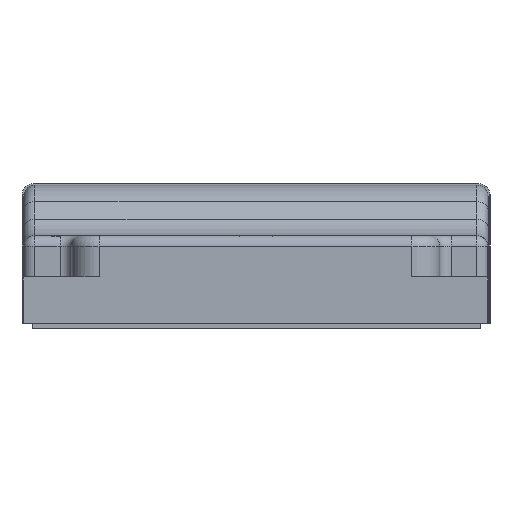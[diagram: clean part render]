
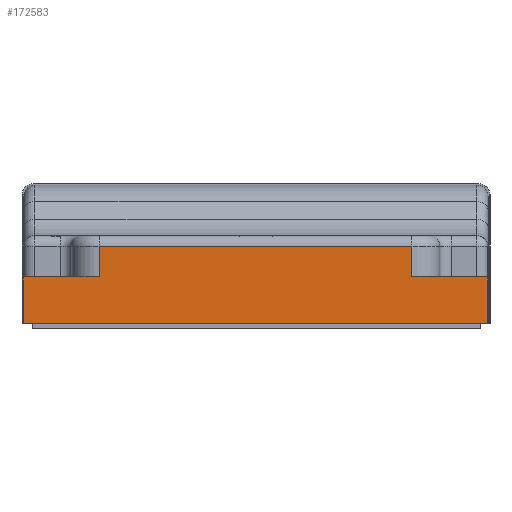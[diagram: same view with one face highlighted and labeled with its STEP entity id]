
A CAD part, front view. The second image highlights one B-rep face of the part: STEP entity #172583.
In plain terms, the highlighted planar face has unit normal (-0.001, -1, 0).
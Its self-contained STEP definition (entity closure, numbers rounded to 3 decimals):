
#3055 = ORIENTED_EDGE ( 'NONE', *, *, #132121, .T. ) ;
#8104 = LINE ( 'NONE', #34908, #114056 ) ;
#11559 = CARTESIAN_POINT ( 'NONE',  ( 27.94, -61.5, 13.7 ) ) ;
#16774 = VERTEX_POINT ( 'NONE', #168726 ) ;
#17654 = ORIENTED_EDGE ( 'NONE', *, *, #64771, .T. ) ;
#19799 = LINE ( 'NONE', #50496, #155157 ) ;
#21124 = CARTESIAN_POINT ( 'NONE',  ( -41.5, -61.5, 24.7 ) ) ;
#28997 = EDGE_CURVE ( 'NONE', #127582, #53395, #98171, .T. ) ;
#32143 = EDGE_LOOP ( 'NONE', ( #17654, #145601, #125569, #132862, #3055, #81362, #69707, #59852 ) ) ;
#33464 = LINE ( 'NONE', #111272, #184637 ) ;
#34908 = CARTESIAN_POINT ( 'NONE',  ( -27.94, -61.5, 24.7 ) ) ;
#36101 = CARTESIAN_POINT ( 'NONE',  ( -41.5, -61.5, 8.3 ) ) ;
#38488 = EDGE_CURVE ( 'NONE', #137800, #107832, #33464, .T. ) ;
#44339 = CARTESIAN_POINT ( 'NONE',  ( -41.5, -61.5, 0. ) ) ;
#44959 = DIRECTION ( 'NONE',  ( 1., 0., 0. ) ) ;
#45780 = CARTESIAN_POINT ( 'NONE',  ( -41.5, -61.5, 8.3 ) ) ;
#47839 = CARTESIAN_POINT ( 'NONE',  ( -27.94, -61.5, 8.3 ) ) ;
#49643 = EDGE_CURVE ( 'NONE', #107832, #53395, #169806, .T. ) ;
#50496 = CARTESIAN_POINT ( 'NONE',  ( -41.5, -61.5, 24.7 ) ) ;
#53395 = VERTEX_POINT ( 'NONE', #149271 ) ;
#59852 = ORIENTED_EDGE ( 'NONE', *, *, #38488, .F. ) ;
#61899 = EDGE_CURVE ( 'NONE', #125805, #16774, #127396, .T. ) ;
#62651 = FACE_OUTER_BOUND ( 'NONE', #32143, .T. ) ;
#64771 = EDGE_CURVE ( 'NONE', #137800, #125805, #166868, .T. ) ;
#67868 = DIRECTION ( 'NONE',  ( 1., 0., 0. ) ) ;
#69707 = ORIENTED_EDGE ( 'NONE', *, *, #49643, .F. ) ;
#80327 = AXIS2_PLACEMENT_3D ( 'NONE', #21124, #180618, #181861 ) ;
#81362 = ORIENTED_EDGE ( 'NONE', *, *, #28997, .T. ) ;
#91581 = DIRECTION ( 'NONE',  ( 0., 0., -1. ) ) ;
#92272 = VECTOR ( 'NONE', #131180, 1000. ) ;
#94536 = DIRECTION ( 'NONE',  ( 0., 0., -1. ) ) ;
#97697 = CARTESIAN_POINT ( 'NONE',  ( 27.94, -61.5, 8.3 ) ) ;
#98171 = LINE ( 'NONE', #44339, #122993 ) ;
#101767 = DIRECTION ( 'NONE',  ( -1., 0., 0. ) ) ;
#105207 = CARTESIAN_POINT ( 'NONE',  ( 27.94, -61.5, 24.7 ) ) ;
#107832 = VERTEX_POINT ( 'NONE', #130153 ) ;
#111272 = CARTESIAN_POINT ( 'NONE',  ( 41.5, -61.5, 8.3 ) ) ;
#114056 = VECTOR ( 'NONE', #91581, 1000. ) ;
#119023 = CARTESIAN_POINT ( 'NONE',  ( -41.5, -61.5, 0. ) ) ;
#122434 = EDGE_CURVE ( 'NONE', #149849, #182365, #123882, .T. ) ;
#122993 = VECTOR ( 'NONE', #44959, 1000. ) ;
#123882 = LINE ( 'NONE', #36101, #146484 ) ;
#125569 = ORIENTED_EDGE ( 'NONE', *, *, #184788, .T. ) ;
#125805 = VERTEX_POINT ( 'NONE', #11559 ) ;
#127396 = LINE ( 'NONE', #159880, #186057 ) ;
#127582 = VERTEX_POINT ( 'NONE', #119023 ) ;
#130153 = CARTESIAN_POINT ( 'NONE',  ( 41.5, -61.5, 8.3 ) ) ;
#131180 = DIRECTION ( 'NONE',  ( 0., 0., 1. ) ) ;
#132121 = EDGE_CURVE ( 'NONE', #149849, #127582, #19799, .T. ) ;
#132862 = ORIENTED_EDGE ( 'NONE', *, *, #122434, .F. ) ;
#136318 = DIRECTION ( 'NONE',  ( 1., 0., 0. ) ) ;
#137800 = VERTEX_POINT ( 'NONE', #97697 ) ;
#145601 = ORIENTED_EDGE ( 'NONE', *, *, #61899, .T. ) ;
#146484 = VECTOR ( 'NONE', #136318, 1000. ) ;
#149271 = CARTESIAN_POINT ( 'NONE',  ( 41.5, -61.5, 0. ) ) ;
#149849 = VERTEX_POINT ( 'NONE', #45780 ) ;
#155157 = VECTOR ( 'NONE', #94536, 1000. ) ;
#159150 = CARTESIAN_POINT ( 'NONE',  ( 41.5, -61.5, 24.7 ) ) ;
#159880 = CARTESIAN_POINT ( 'NONE',  ( -41.5, -61.5, 13.7 ) ) ;
#166768 = PLANE ( 'NONE',  #80327 ) ;
#166868 = LINE ( 'NONE', #105207, #92272 ) ;
#168726 = CARTESIAN_POINT ( 'NONE',  ( -27.94, -61.5, 13.7 ) ) ;
#169806 = LINE ( 'NONE', #159150, #172141 ) ;
#172141 = VECTOR ( 'NONE', #172953, 1000. ) ;
#172583 = ADVANCED_FACE ( 'NONE', ( #62651 ), #166768, .F. ) ;
#172953 = DIRECTION ( 'NONE',  ( 0., 0., -1. ) ) ;
#180618 = DIRECTION ( 'NONE',  ( 0., 1., 0. ) ) ;
#181861 = DIRECTION ( 'NONE',  ( 0., 0., 1. ) ) ;
#182365 = VERTEX_POINT ( 'NONE', #47839 ) ;
#184637 = VECTOR ( 'NONE', #67868, 1000. ) ;
#184788 = EDGE_CURVE ( 'NONE', #16774, #182365, #8104, .T. ) ;
#186057 = VECTOR ( 'NONE', #101767, 1000. ) ;
